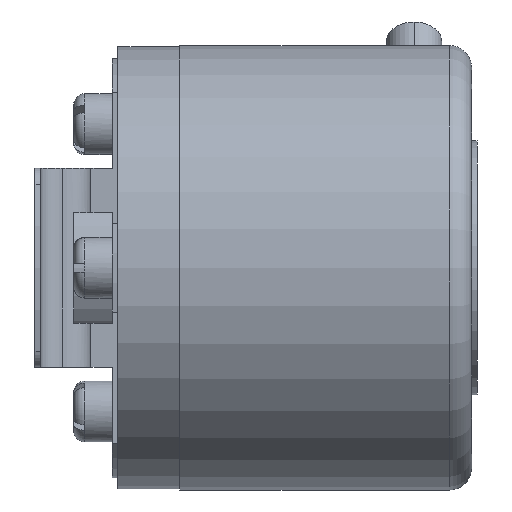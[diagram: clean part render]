
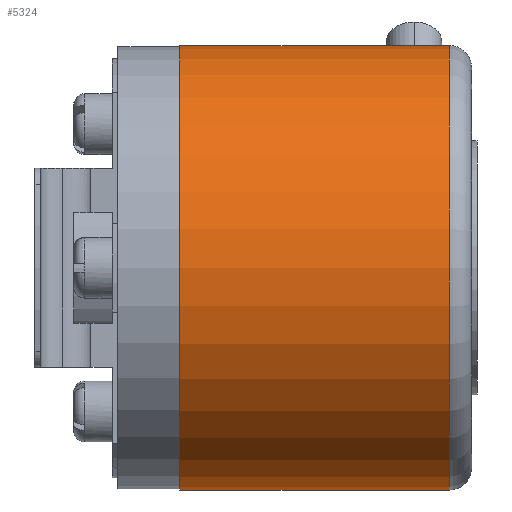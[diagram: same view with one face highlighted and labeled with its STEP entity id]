
A CAD part, left-side view. The second image highlights one B-rep face of the part: STEP entity #5324.
In plain terms, the highlighted cylindrical face has radius 20.1 mm (diameter 40.2 mm), a partial arc.
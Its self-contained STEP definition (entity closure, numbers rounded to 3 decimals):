
#962 = CIRCLE ( 'NONE', #6218, 20.1 ) ;
#963 = CIRCLE ( 'NONE', #6223, 20.1 ) ;
#3152 = LINE ( 'NONE', #3153, #6221 ) ;
#3153 = CARTESIAN_POINT ( 'NONE',  ( -0.079, -22.51, 20.1 ) ) ;
#3154 = DIRECTION ( 'NONE',  ( 0., -1., 0. ) ) ;
#3171 = CARTESIAN_POINT ( 'NONE',  ( -0.079, 26.4, 0. ) ) ;
#3175 = DIRECTION ( 'NONE',  ( 0., -1., 0. ) ) ;
#3176 = DIRECTION ( 'NONE',  ( 0., 0., -1. ) ) ;
#3177 = CARTESIAN_POINT ( 'NONE',  ( -0.079, 2., 0. ) ) ;
#3178 = LINE ( 'NONE', #3179, #6225 ) ;
#3179 = CARTESIAN_POINT ( 'NONE',  ( -0.079, -22.51, -20.1 ) ) ;
#3180 = DIRECTION ( 'NONE',  ( 0., -1., 0. ) ) ;
#3181 = DIRECTION ( 'NONE',  ( 0., 1., 0. ) ) ;
#3182 = DIRECTION ( 'NONE',  ( 0., 0., -1. ) ) ;
#3633 = CARTESIAN_POINT ( 'NONE',  ( -0.079, -22.51, 0. ) ) ;
#3649 = DIRECTION ( 'NONE',  ( 0., -1., 0. ) ) ;
#3650 = DIRECTION ( 'NONE',  ( 0., 0., -1. ) ) ;
#4993 = CARTESIAN_POINT ( 'NONE',  ( -0.079, 2., 20.1 ) ) ;
#4997 = CARTESIAN_POINT ( 'NONE',  ( -0.079, 2., -20.1 ) ) ;
#5013 = CARTESIAN_POINT ( 'NONE',  ( -0.079, 26.4, 20.1 ) ) ;
#5015 = CARTESIAN_POINT ( 'NONE',  ( -0.079, 26.4, -20.1 ) ) ;
#5214 = EDGE_CURVE ( 'NONE', #7296, #7276, #3152, .T. ) ;
#5218 = EDGE_CURVE ( 'NONE', #7296, #7298, #962, .T. ) ;
#5219 = EDGE_CURVE ( 'NONE', #7298, #7280, #3178, .T. ) ;
#5220 = EDGE_CURVE ( 'NONE', #7280, #7276, #963, .T. ) ;
#5324 = ADVANCED_FACE ( 'NONE', ( #6317 ), #6326, .T. ) ;
#6218 = AXIS2_PLACEMENT_3D ( 'NONE', #3171, #3175, #3176 ) ;
#6221 = VECTOR ( 'NONE', #3154, 1000. ) ;
#6223 = AXIS2_PLACEMENT_3D ( 'NONE', #3177, #3181, #3182 ) ;
#6225 = VECTOR ( 'NONE', #3180, 1000. ) ;
#6312 = AXIS2_PLACEMENT_3D ( 'NONE', #3633, #3649, #3650 ) ;
#6317 = FACE_OUTER_BOUND ( 'NONE', #7412, .T. ) ;
#6326 = CYLINDRICAL_SURFACE ( 'NONE', #6312, 20.1 ) ;
#7148 = ORIENTED_EDGE ( 'NONE', *, *, #5214, .F. ) ;
#7150 = ORIENTED_EDGE ( 'NONE', *, *, #5219, .T. ) ;
#7151 = ORIENTED_EDGE ( 'NONE', *, *, #5218, .T. ) ;
#7152 = ORIENTED_EDGE ( 'NONE', *, *, #5220, .T. ) ;
#7276 = VERTEX_POINT ( 'NONE', #4993 ) ;
#7280 = VERTEX_POINT ( 'NONE', #4997 ) ;
#7296 = VERTEX_POINT ( 'NONE', #5013 ) ;
#7298 = VERTEX_POINT ( 'NONE', #5015 ) ;
#7412 = EDGE_LOOP ( 'NONE', ( #7148, #7151, #7150, #7152 ) ) ;
